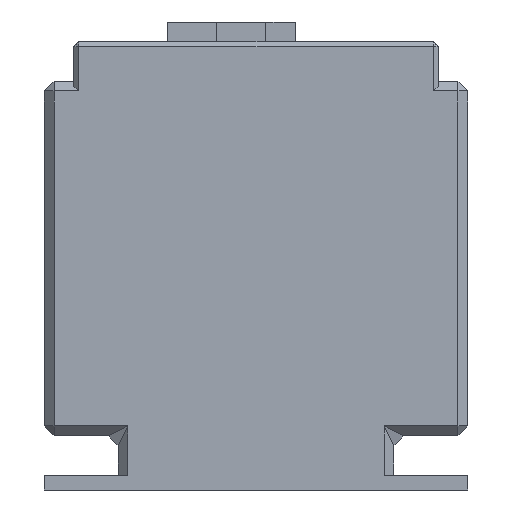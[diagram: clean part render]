
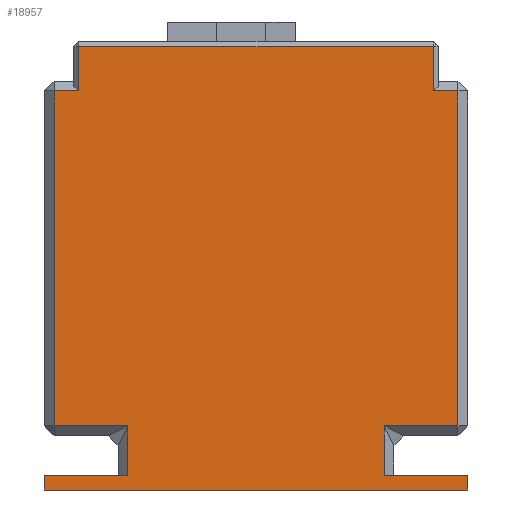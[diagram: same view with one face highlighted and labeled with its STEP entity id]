
A CAD part, left-side view. The second image highlights one B-rep face of the part: STEP entity #18957.
In plain terms, the highlighted planar face has unit normal (-1, 0, 0).
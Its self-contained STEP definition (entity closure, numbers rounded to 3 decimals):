
#1976=FACE_OUTER_BOUND('',#3101,.T.);
#3101=EDGE_LOOP('',(#15522,#15523,#15524,#15525,#15526,#15527,#15528,#15529,
#15530,#15531,#15532,#15533,#15534,#15535,#15536,#15537));
#4793=LINE('',#31758,#6682);
#4795=LINE('',#31761,#6684);
#4799=LINE('',#31771,#6688);
#4829=LINE('',#31834,#6718);
#4831=LINE('',#31837,#6720);
#4837=LINE('',#31846,#6726);
#4846=LINE('',#31862,#6735);
#4881=LINE('',#31935,#6770);
#4884=LINE('',#31940,#6773);
#4888=LINE('',#31946,#6777);
#4892=LINE('',#31954,#6781);
#4896=LINE('',#31962,#6785);
#4897=LINE('',#31964,#6786);
#4898=LINE('',#31966,#6787);
#4899=LINE('',#31968,#6788);
#4900=LINE('',#31969,#6789);
#6682=VECTOR('',#22638,10.);
#6684=VECTOR('',#22642,10.);
#6688=VECTOR('',#22652,10.);
#6718=VECTOR('',#22704,10.);
#6720=VECTOR('',#22708,10.);
#6726=VECTOR('',#22720,10.);
#6735=VECTOR('',#22735,10.);
#6770=VECTOR('',#22800,10.);
#6773=VECTOR('',#22807,10.);
#6777=VECTOR('',#22813,10.);
#6781=VECTOR('',#22821,10.);
#6785=VECTOR('',#22829,10.);
#6786=VECTOR('',#22830,10.);
#6787=VECTOR('',#22831,10.);
#6788=VECTOR('',#22832,10.);
#6789=VECTOR('',#22833,10.);
#8480=VERTEX_POINT('',#31742);
#8482=VERTEX_POINT('',#31751);
#8484=VERTEX_POINT('',#31756);
#8486=VERTEX_POINT('',#31767);
#8493=VERTEX_POINT('',#31784);
#8499=VERTEX_POINT('',#31798);
#8504=VERTEX_POINT('',#31810);
#8512=VERTEX_POINT('',#31858);
#8528=VERTEX_POINT('',#31910);
#8532=VERTEX_POINT('',#31918);
#8534=VERTEX_POINT('',#31927);
#8539=VERTEX_POINT('',#31952);
#8541=VERTEX_POINT('',#31961);
#8542=VERTEX_POINT('',#31963);
#8543=VERTEX_POINT('',#31965);
#8544=VERTEX_POINT('',#31967);
#10884=EDGE_CURVE('',#8484,#8482,#4793,.T.);
#10886=EDGE_CURVE('',#8482,#8480,#4795,.T.);
#10891=EDGE_CURVE('',#8480,#8486,#4799,.T.);
#10921=EDGE_CURVE('',#8486,#8504,#4829,.T.);
#10923=EDGE_CURVE('',#8504,#8499,#4831,.T.);
#10929=EDGE_CURVE('',#8499,#8493,#4837,.T.);
#10938=EDGE_CURVE('',#8493,#8512,#4846,.T.);
#10973=EDGE_CURVE('',#8534,#8532,#4881,.T.);
#10976=EDGE_CURVE('',#8528,#8534,#4884,.T.);
#10980=EDGE_CURVE('',#8532,#8484,#4888,.T.);
#10984=EDGE_CURVE('',#8539,#8528,#4892,.T.);
#10988=EDGE_CURVE('',#8539,#8541,#4896,.T.);
#10989=EDGE_CURVE('',#8542,#8541,#4897,.T.);
#10990=EDGE_CURVE('',#8542,#8543,#4898,.T.);
#10991=EDGE_CURVE('',#8543,#8544,#4899,.T.);
#10992=EDGE_CURVE('',#8544,#8512,#4900,.T.);
#15522=ORIENTED_EDGE('',*,*,#10980,.F.);
#15523=ORIENTED_EDGE('',*,*,#10973,.F.);
#15524=ORIENTED_EDGE('',*,*,#10976,.F.);
#15525=ORIENTED_EDGE('',*,*,#10984,.F.);
#15526=ORIENTED_EDGE('',*,*,#10988,.T.);
#15527=ORIENTED_EDGE('',*,*,#10989,.F.);
#15528=ORIENTED_EDGE('',*,*,#10990,.T.);
#15529=ORIENTED_EDGE('',*,*,#10991,.T.);
#15530=ORIENTED_EDGE('',*,*,#10992,.T.);
#15531=ORIENTED_EDGE('',*,*,#10938,.F.);
#15532=ORIENTED_EDGE('',*,*,#10929,.F.);
#15533=ORIENTED_EDGE('',*,*,#10923,.F.);
#15534=ORIENTED_EDGE('',*,*,#10921,.F.);
#15535=ORIENTED_EDGE('',*,*,#10891,.F.);
#15536=ORIENTED_EDGE('',*,*,#10886,.F.);
#15537=ORIENTED_EDGE('',*,*,#10884,.F.);
#17889=PLANE('',#19858);
#18957=ADVANCED_FACE('',(#1976),#17889,.T.);
#19858=AXIS2_PLACEMENT_3D('',#31960,#22827,#22828);
#22638=DIRECTION('',(0.,0.,1.));
#22642=DIRECTION('',(0.,-1.,0.));
#22652=DIRECTION('',(0.,0.,-1.));
#22704=DIRECTION('',(0.,-1.,0.));
#22708=DIRECTION('',(0.,0.,-1.));
#22720=DIRECTION('',(0.,1.,0.));
#22735=DIRECTION('',(0.,0.,-1.));
#22800=DIRECTION('',(0.,0.,1.));
#22807=DIRECTION('',(0.,1.,0.));
#22813=DIRECTION('',(0.,-1.,0.));
#22821=DIRECTION('',(0.,0.,1.));
#22827=DIRECTION('center_axis',(-1.,0.,0.));
#22828=DIRECTION('ref_axis',(0.,-1.,0.));
#22829=DIRECTION('',(0.,1.,0.));
#22830=DIRECTION('',(0.,0.,1.));
#22831=DIRECTION('',(0.,-1.,0.));
#22832=DIRECTION('',(0.,0.,1.));
#22833=DIRECTION('',(0.,1.,0.));
#31742=CARTESIAN_POINT('',(0.,7.,90.));
#31751=CARTESIAN_POINT('',(0.,79.,90.));
#31756=CARTESIAN_POINT('',(0.,79.,81.));
#31758=CARTESIAN_POINT('',(0.,79.,47.5));
#31761=CARTESIAN_POINT('',(0.,64.5,90.));
#31767=CARTESIAN_POINT('',(0.,7.,81.));
#31771=CARTESIAN_POINT('',(0.,7.,47.5));
#31784=CARTESIAN_POINT('',(0.,17.,13.));
#31798=CARTESIAN_POINT('',(0.,2.,13.));
#31810=CARTESIAN_POINT('',(0.,2.,81.));
#31834=CARTESIAN_POINT('',(0.,44.756,81.));
#31837=CARTESIAN_POINT('',(0.,2.,0.));
#31846=CARTESIAN_POINT('',(0.,43.,13.));
#31858=CARTESIAN_POINT('',(0.,17.,3.));
#31862=CARTESIAN_POINT('',(0.,17.,3.5));
#31910=CARTESIAN_POINT('',(0.,69.,13.));
#31918=CARTESIAN_POINT('',(0.,84.,81.));
#31927=CARTESIAN_POINT('',(0.,84.,13.));
#31935=CARTESIAN_POINT('',(0.,84.,0.));
#31940=CARTESIAN_POINT('',(0.,86.,13.));
#31946=CARTESIAN_POINT('',(0.,84.244,81.));
#31952=CARTESIAN_POINT('',(0.,69.,3.));
#31954=CARTESIAN_POINT('',(0.,69.,3.5));
#31960=CARTESIAN_POINT('Origin',(0.,86.,0.));
#31961=CARTESIAN_POINT('',(0.,86.,3.));
#31962=CARTESIAN_POINT('',(0.,86.,3.));
#31963=CARTESIAN_POINT('',(0.,86.,0.));
#31964=CARTESIAN_POINT('',(0.,86.,0.));
#31965=CARTESIAN_POINT('',(0.,0.,0.));
#31966=CARTESIAN_POINT('',(0.,86.,0.));
#31967=CARTESIAN_POINT('',(0.,0.,3.));
#31968=CARTESIAN_POINT('',(0.,0.,0.));
#31969=CARTESIAN_POINT('',(0.,43.,3.));
